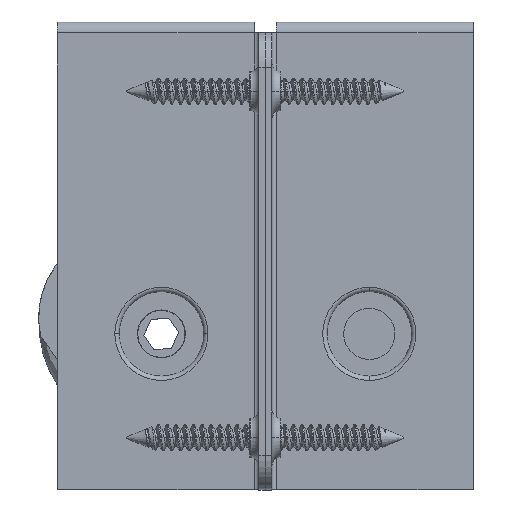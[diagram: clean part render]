
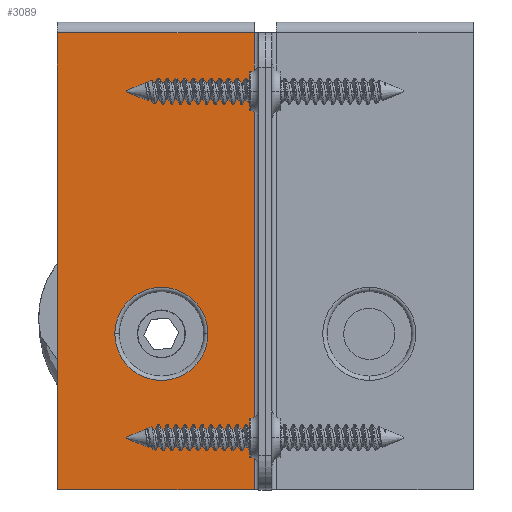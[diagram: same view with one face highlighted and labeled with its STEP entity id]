
A CAD part, top view. The second image highlights one B-rep face of the part: STEP entity #3089.
In plain terms, the highlighted planar face has unit normal (0, 0, 1).
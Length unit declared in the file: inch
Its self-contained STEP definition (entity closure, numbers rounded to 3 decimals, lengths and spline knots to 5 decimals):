
#3028 = EDGE_LOOP ( 'NONE', ( #3086, #3082 ) ) ;
#3032 = VERTEX_POINT ( 'NONE', #5562 ) ;
#3067 = EDGE_LOOP ( 'NONE', ( #3068, #3085, #3084, #3077 ) ) ;
#3068 = ORIENTED_EDGE ( 'NONE', *, *, #3090, .F. ) ;
#3070 = EDGE_CURVE ( 'NONE', #3071, #3091, #5681, .T. ) ;
#3071 = VERTEX_POINT ( 'NONE', #5683 ) ;
#3073 = EDGE_CURVE ( 'NONE', #3094, #3071, #5792, .T. ) ;
#3077 = ORIENTED_EDGE ( 'NONE', *, *, #3081, .T. ) ;
#3081 = EDGE_CURVE ( 'NONE', #3094, #3032, #5774, .T. ) ;
#3082 = ORIENTED_EDGE ( 'NONE', *, *, #3088, .T. ) ;
#3084 = ORIENTED_EDGE ( 'NONE', *, *, #3073, .F. ) ;
#3085 = ORIENTED_EDGE ( 'NONE', *, *, #3070, .F. ) ;
#3086 = ORIENTED_EDGE ( 'NONE', *, *, #15047, .T. ) ;
#3088 = EDGE_CURVE ( 'NONE', #15049, #15058, #5760, .T. ) ;
#3089 = ADVANCED_FACE ( 'NONE', ( #5685, #5762 ), #5797, .F. ) ;
#3090 = EDGE_CURVE ( 'NONE', #3091, #3032, #5862, .T. ) ;
#3091 = VERTEX_POINT ( 'NONE', #5867 ) ;
#3094 = VERTEX_POINT ( 'NONE', #5787 ) ;
#5562 = CARTESIAN_POINT ( 'NONE',  ( -0.07905, -1.6875, 0.25 ) ) ;
#5676 = DIRECTION ( 'NONE',  ( 1., 0., 0. ) ) ;
#5677 = VECTOR ( 'NONE', #5676, 39.37008 ) ;
#5679 = CARTESIAN_POINT ( 'NONE',  ( -1.5, 1.60845, 0.25 ) ) ;
#5681 = LINE ( 'NONE', #5679, #5677 ) ;
#5683 = CARTESIAN_POINT ( 'NONE',  ( -1.5, 1.60845, 0.25 ) ) ;
#5685 = FACE_BOUND ( 'NONE', #3028, .T. ) ;
#5726 = CARTESIAN_POINT ( 'NONE',  ( -1.5, -1.6875, 0.25 ) ) ;
#5743 = DIRECTION ( 'NONE',  ( -1., 0., 0. ) ) ;
#5744 = CARTESIAN_POINT ( 'NONE',  ( -0.07905, 1.60845, 0.25 ) ) ;
#5750 = AXIS2_PLACEMENT_3D ( 'NONE', #5770, #5769, #5743 ) ;
#5752 = DIRECTION ( 'NONE',  ( -1., 0., 0. ) ) ;
#5754 = DIRECTION ( 'NONE',  ( 0., 0., -1. ) ) ;
#5755 = CARTESIAN_POINT ( 'NONE',  ( -0.75, -0.5625, 0.25 ) ) ;
#5760 = CIRCLE ( 'NONE', #5768, 0.336 ) ;
#5762 = FACE_OUTER_BOUND ( 'NONE', #3067, .T. ) ;
#5768 = AXIS2_PLACEMENT_3D ( 'NONE', #5755, #5754, #5752 ) ;
#5769 = DIRECTION ( 'NONE',  ( 0., 0., -1. ) ) ;
#5770 = CARTESIAN_POINT ( 'NONE',  ( -1.5, -1.6875, 0.25 ) ) ;
#5772 = DIRECTION ( 'NONE',  ( 1., 0., 0. ) ) ;
#5773 = VECTOR ( 'NONE', #5772, 39.37008 ) ;
#5774 = LINE ( 'NONE', #5781, #5773 ) ;
#5781 = CARTESIAN_POINT ( 'NONE',  ( -1.5, -1.6875, 0.25 ) ) ;
#5787 = CARTESIAN_POINT ( 'NONE',  ( -1.5, -1.6875, 0.25 ) ) ;
#5789 = DIRECTION ( 'NONE',  ( 0., 1., 0. ) ) ;
#5791 = VECTOR ( 'NONE', #5789, 39.37008 ) ;
#5792 = LINE ( 'NONE', #5726, #5791 ) ;
#5797 = PLANE ( 'NONE',  #5750 ) ;
#5859 = DIRECTION ( 'NONE',  ( 0., -1., 0. ) ) ;
#5860 = VECTOR ( 'NONE', #5859, 39.37008 ) ;
#5862 = LINE ( 'NONE', #5744, #5860 ) ;
#5867 = CARTESIAN_POINT ( 'NONE',  ( -0.07905, 1.60845, 0.25 ) ) ;
#8280 = CIRCLE ( 'NONE', #8322, 0.336 ) ;
#8318 = DIRECTION ( 'NONE',  ( -1., 0., 0. ) ) ;
#8319 = DIRECTION ( 'NONE',  ( 0., 0., -1. ) ) ;
#8322 = AXIS2_PLACEMENT_3D ( 'NONE', #8326, #8319, #8318 ) ;
#8326 = CARTESIAN_POINT ( 'NONE',  ( -0.75, -0.5625, 0.25 ) ) ;
#8327 = CARTESIAN_POINT ( 'NONE',  ( -0.414, -0.5625, 0.25 ) ) ;
#8362 = CARTESIAN_POINT ( 'NONE',  ( -1.086, -0.5625, 0.25 ) ) ;
#15047 = EDGE_CURVE ( 'NONE', #15058, #15049, #8280, .T. ) ;
#15049 = VERTEX_POINT ( 'NONE', #8327 ) ;
#15058 = VERTEX_POINT ( 'NONE', #8362 ) ;
